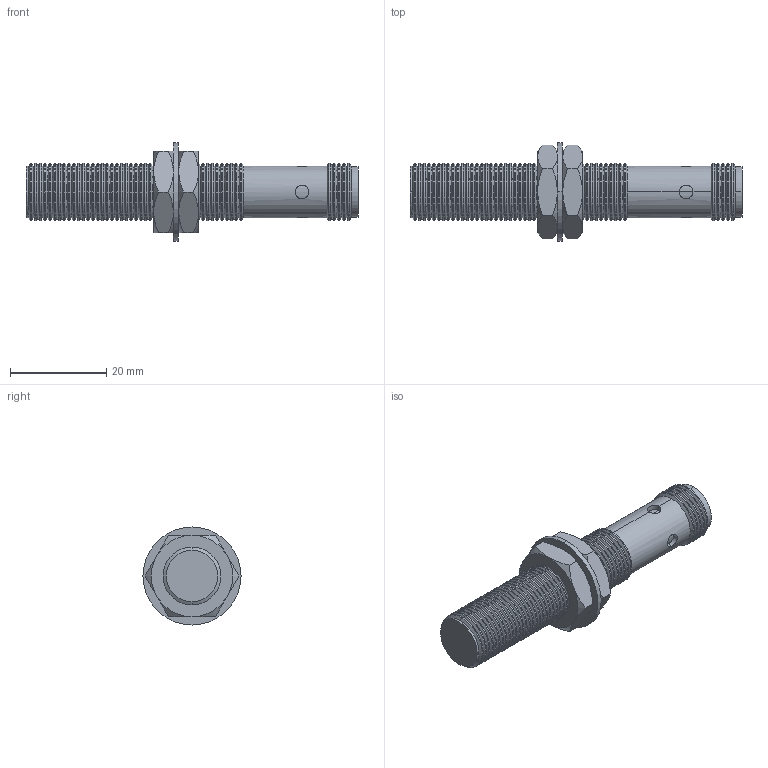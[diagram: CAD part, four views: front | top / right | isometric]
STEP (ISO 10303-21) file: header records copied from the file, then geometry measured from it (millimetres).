
FILE_DESCRIPTION (( 'STEP AP203' ), '1' );
FILE_NAME ('90-29417-057.STEP', '2015-11-14T18:56:30', ( 'Sam' ), ( 'Spade' ), 'SwSTEP 2.0', 'SolidWorks 2002296', '' );
FILE_SCHEMA (( 'CONFIG_CONTROL_DESIGN' ));
Length unit declared in the file: inch
Products named in the file (11): 90-29417-057; Imported10; Imported12; Imported11; Imported16; Imported15; Imported14; Imported13; Imported19; Imported18; Imported17
Assembly tree (10 placements, depth 2):
  90-29417-057
    Imported18
    Imported17
    Imported19
    Imported16
    Imported12
    Imported15
    Imported11
    Imported10
    Imported14
    Imported13
Bounding box: 68.83 x 20.32 x 20.32 mm (x, y, z)
Volume: 7886.6 mm3; surface area: 7117.9 mm2
Topology: 10 solids, 10 shells, 495 faces, 1163 edges, 683 vertices
Faces by surface type: cone 260, cylinder 155, plane 74, bspline 6
Entity records: 15854 total; most frequent: CARTESIAN_POINT 3078, DIRECTION 2663, ORIENTED_EDGE 2314, EDGE_CURVE 1157, AXIS2_PLACEMENT_3D 1068, VERTEX_POINT 683, CIRCLE 566, LINE 527
